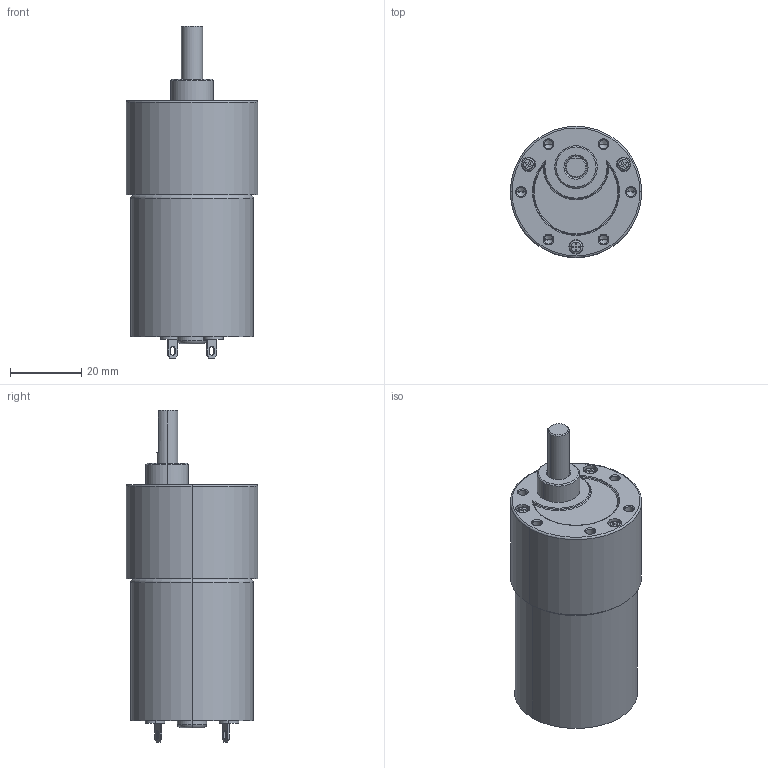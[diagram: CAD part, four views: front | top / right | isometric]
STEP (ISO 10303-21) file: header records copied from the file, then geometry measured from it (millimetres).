
FILE_DESCRIPTION (( 'STEP AP214' ), '1' );
FILE_NAME ('BDSG-37-40-R150.STEP', '2010-06-25T15:50:32', ( 'Tim Raines' ), ( 'Anaheim Automation' ), 'SwSTEP 2.0', 'SolidWorks 2010', '' );
FILE_SCHEMA (( 'AUTOMOTIVE_DESIGN' ));
Length unit declared in the file: millimetre
Products named in the file (1): BDSG-37-40-R150
Bounding box: 37 x 37 x 93.5 mm (x, y, z)
Volume: 66002.8 mm3; surface area: 11338.6 mm2
Topology: 1 solids, 1 shells, 180 faces, 423 edges, 260 vertices
Faces by surface type: plane 77, cylinder 48, cone 31, torus 24
Entity records: 7118 total; most frequent: DIRECTION 934, CARTESIAN_POINT 894, ORIENTED_EDGE 822, EDGE_CURVE 411, AXIS2_PLACEMENT_3D 348, VERTEX_POINT 260, VECTOR 238, LINE 238
